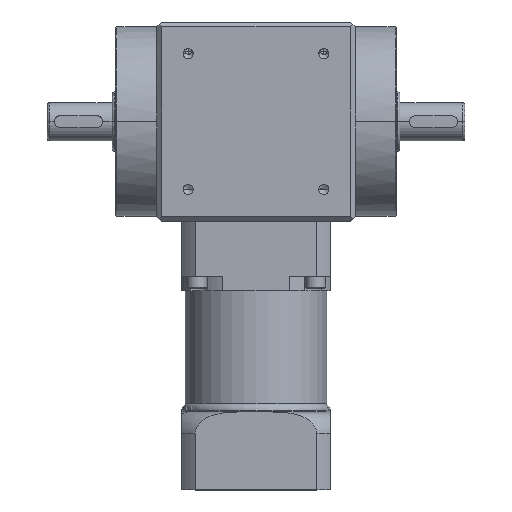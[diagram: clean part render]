
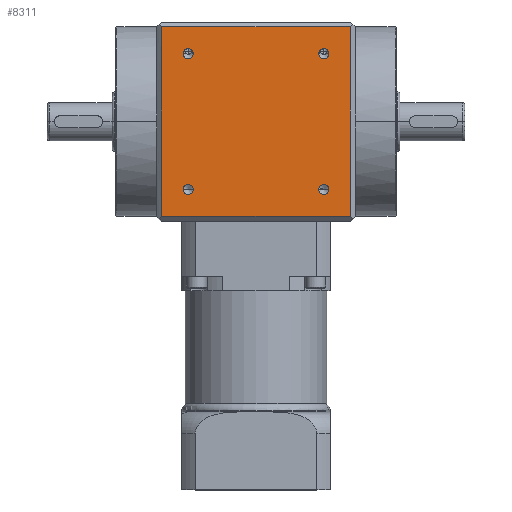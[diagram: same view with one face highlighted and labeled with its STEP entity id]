
A CAD part, top view. The second image highlights one B-rep face of the part: STEP entity #8311.
In plain terms, the highlighted planar face has unit normal (0, 0, 1).
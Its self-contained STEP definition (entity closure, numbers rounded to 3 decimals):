
#334 = CARTESIAN_POINT ( 'NONE',  ( 28.284, 105.316, 41.5 ) ) ;
#350 = CIRCLE ( 'NONE', #19215, 2.1 ) ;
#403 = CARTESIAN_POINT ( 'NONE',  ( -28.284, 163.984, 41.5 ) ) ;
#411 = DIRECTION ( 'NONE',  ( 0., 0., -1. ) ) ;
#420 = VERTEX_POINT ( 'NONE', #15628 ) ;
#786 = DIRECTION ( 'NONE',  ( 0., -1., 0. ) ) ;
#1040 = CIRCLE ( 'NONE', #12702, 2.1 ) ;
#1624 = DIRECTION ( 'NONE',  ( 0., 1., 0. ) ) ;
#1808 = LINE ( 'NONE', #12188, #14333 ) ;
#1946 = DIRECTION ( 'NONE',  ( 0., -1., 0. ) ) ;
#2062 = ORIENTED_EDGE ( 'NONE', *, *, #18816, .F. ) ;
#2247 = VERTEX_POINT ( 'NONE', #5812 ) ;
#2266 = EDGE_LOOP ( 'NONE', ( #18746, #11947 ) ) ;
#2603 = VERTEX_POINT ( 'NONE', #16761 ) ;
#2665 = DIRECTION ( 'NONE',  ( 0., 0., 1. ) ) ;
#3343 = DIRECTION ( 'NONE',  ( 0., 0., -1. ) ) ;
#3691 = EDGE_CURVE ( 'NONE', #15617, #10417, #1040, .T. ) ;
#3859 = CARTESIAN_POINT ( 'NONE',  ( 39.292, 0., 41.5 ) ) ;
#4835 = AXIS2_PLACEMENT_3D ( 'NONE', #14678, #14629, #14603 ) ;
#4847 = ORIENTED_EDGE ( 'NONE', *, *, #16354, .F. ) ;
#4848 = AXIS2_PLACEMENT_3D ( 'NONE', #16026, #6985, #17592 ) ;
#4887 = CARTESIAN_POINT ( 'NONE',  ( -28.284, 166.084, 41.5 ) ) ;
#5171 = DIRECTION ( 'NONE',  ( 0., 1., 0. ) ) ;
#5304 = DIRECTION ( 'NONE',  ( 0., 0., -1. ) ) ;
#5368 = CARTESIAN_POINT ( 'NONE',  ( -41.5, 177.2, 41.5 ) ) ;
#5486 = CIRCLE ( 'NONE', #18837, 2.1 ) ;
#5812 = CARTESIAN_POINT ( 'NONE',  ( -39.292, 96.2, 41.5 ) ) ;
#6049 = PLANE ( 'NONE',  #15906 ) ;
#6076 = DIRECTION ( 'NONE',  ( 0., -1., 0. ) ) ;
#6080 = DIRECTION ( 'NONE',  ( 0., 0., 1. ) ) ;
#6103 = CARTESIAN_POINT ( 'NONE',  ( 28.284, 107.416, 41.5 ) ) ;
#6547 = FACE_BOUND ( 'NONE', #7047, .T. ) ;
#6671 = ORIENTED_EDGE ( 'NONE', *, *, #17226, .T. ) ;
#6872 = AXIS2_PLACEMENT_3D ( 'NONE', #11736, #2665, #13235 ) ;
#6944 = EDGE_CURVE ( 'NONE', #19223, #15157, #16924, .T. ) ;
#6985 = DIRECTION ( 'NONE',  ( 0., 0., 1. ) ) ;
#7027 = FACE_BOUND ( 'NONE', #2266, .T. ) ;
#7047 = EDGE_LOOP ( 'NONE', ( #6671, #7445 ) ) ;
#7273 = CARTESIAN_POINT ( 'NONE',  ( -28.284, 163.984, 41.5 ) ) ;
#7445 = ORIENTED_EDGE ( 'NONE', *, *, #16078, .T. ) ;
#7520 = CIRCLE ( 'NONE', #4848, 2.1 ) ;
#7839 = CIRCLE ( 'NONE', #6872, 2.1 ) ;
#8059 = VERTEX_POINT ( 'NONE', #14202 ) ;
#8119 = VECTOR ( 'NONE', #1624, 1000. ) ;
#8179 = LINE ( 'NONE', #10684, #8119 ) ;
#8311 = ADVANCED_FACE ( 'NONE', ( #14548, #15746, #14330, #7027, #6547 ), #6049, .F. ) ;
#8709 = EDGE_LOOP ( 'NONE', ( #4847, #12677 ) ) ;
#8802 = DIRECTION ( 'NONE',  ( 0., -1., 0. ) ) ;
#8907 = ORIENTED_EDGE ( 'NONE', *, *, #18146, .F. ) ;
#9507 = CARTESIAN_POINT ( 'NONE',  ( 28.284, 163.984, 41.5 ) ) ;
#9647 = CARTESIAN_POINT ( 'NONE',  ( 28.284, 166.084, 41.5 ) ) ;
#10396 = EDGE_CURVE ( 'NONE', #420, #14547, #350, .T. ) ;
#10417 = VERTEX_POINT ( 'NONE', #334 ) ;
#10684 = CARTESIAN_POINT ( 'NONE',  ( -39.292, 177.2, 41.5 ) ) ;
#10730 = CARTESIAN_POINT ( 'NONE',  ( -28.284, 109.516, 41.5 ) ) ;
#10869 = CARTESIAN_POINT ( 'NONE',  ( 0., 175.2, 41.5 ) ) ;
#11019 = DIRECTION ( 'NONE',  ( 0., 0., -1. ) ) ;
#11027 = DIRECTION ( 'NONE',  ( 0., -1., 0. ) ) ;
#11337 = AXIS2_PLACEMENT_3D ( 'NONE', #9507, #411, #11027 ) ;
#11548 = EDGE_LOOP ( 'NONE', ( #15930, #18107 ) ) ;
#11714 = AXIS2_PLACEMENT_3D ( 'NONE', #7273, #17885, #8802 ) ;
#11736 = CARTESIAN_POINT ( 'NONE',  ( -28.284, 107.416, 41.5 ) ) ;
#11947 = ORIENTED_EDGE ( 'NONE', *, *, #17422, .T. ) ;
#12033 = VERTEX_POINT ( 'NONE', #4887 ) ;
#12134 = ORIENTED_EDGE ( 'NONE', *, *, #17976, .F. ) ;
#12188 = CARTESIAN_POINT ( 'NONE',  ( -41.5, 96.2, 41.5 ) ) ;
#12378 = DIRECTION ( 'NONE',  ( 1., 0., 0. ) ) ;
#12397 = CARTESIAN_POINT ( 'NONE',  ( 28.284, 163.984, 41.5 ) ) ;
#12677 = ORIENTED_EDGE ( 'NONE', *, *, #6944, .F. ) ;
#12702 = AXIS2_PLACEMENT_3D ( 'NONE', #6103, #6080, #6076 ) ;
#13235 = DIRECTION ( 'NONE',  ( 0., -1., 0. ) ) ;
#13708 = DIRECTION ( 'NONE',  ( -1., 0., 0. ) ) ;
#13917 = DIRECTION ( 'NONE',  ( 0., -1., 0. ) ) ;
#14202 = CARTESIAN_POINT ( 'NONE',  ( 39.292, 175.2, 41.5 ) ) ;
#14330 = FACE_BOUND ( 'NONE', #11548, .T. ) ;
#14333 = VECTOR ( 'NONE', #13708, 1000. ) ;
#14547 = VERTEX_POINT ( 'NONE', #9647 ) ;
#14548 = FACE_OUTER_BOUND ( 'NONE', #14642, .T. ) ;
#14603 = DIRECTION ( 'NONE',  ( 0., -1., 0. ) ) ;
#14629 = DIRECTION ( 'NONE',  ( 0., 0., 1. ) ) ;
#14642 = EDGE_LOOP ( 'NONE', ( #16406, #8907, #12134, #2062 ) ) ;
#14678 = CARTESIAN_POINT ( 'NONE',  ( -28.284, 107.416, 41.5 ) ) ;
#14750 = CIRCLE ( 'NONE', #11714, 2.1 ) ;
#15157 = VERTEX_POINT ( 'NONE', #18923 ) ;
#15608 = CARTESIAN_POINT ( 'NONE',  ( -28.284, 161.884, 41.5 ) ) ;
#15617 = VERTEX_POINT ( 'NONE', #17352 ) ;
#15628 = CARTESIAN_POINT ( 'NONE',  ( 28.284, 161.884, 41.5 ) ) ;
#15746 = FACE_BOUND ( 'NONE', #8709, .T. ) ;
#15906 = AXIS2_PLACEMENT_3D ( 'NONE', #5368, #5304, #5171 ) ;
#15930 = ORIENTED_EDGE ( 'NONE', *, *, #16228, .F. ) ;
#16026 = CARTESIAN_POINT ( 'NONE',  ( 28.284, 107.416, 41.5 ) ) ;
#16078 = EDGE_CURVE ( 'NONE', #12033, #19421, #5486, .T. ) ;
#16116 = CIRCLE ( 'NONE', #11337, 2.1 ) ;
#16228 = EDGE_CURVE ( 'NONE', #10417, #15617, #7520, .T. ) ;
#16354 = EDGE_CURVE ( 'NONE', #15157, #19223, #7839, .T. ) ;
#16372 = VECTOR ( 'NONE', #786, 1000. ) ;
#16406 = ORIENTED_EDGE ( 'NONE', *, *, #19210, .F. ) ;
#16415 = LINE ( 'NONE', #3859, #16372 ) ;
#16679 = CARTESIAN_POINT ( 'NONE',  ( -39.292, 175.2, 41.5 ) ) ;
#16761 = CARTESIAN_POINT ( 'NONE',  ( 39.292, 96.2, 41.5 ) ) ;
#16924 = CIRCLE ( 'NONE', #4835, 2.1 ) ;
#17081 = VERTEX_POINT ( 'NONE', #16679 ) ;
#17226 = EDGE_CURVE ( 'NONE', #19421, #12033, #14750, .T. ) ;
#17352 = CARTESIAN_POINT ( 'NONE',  ( 28.284, 109.516, 41.5 ) ) ;
#17422 = EDGE_CURVE ( 'NONE', #14547, #420, #16116, .T. ) ;
#17592 = DIRECTION ( 'NONE',  ( 0., -1., 0. ) ) ;
#17885 = DIRECTION ( 'NONE',  ( 0., 0., -1. ) ) ;
#17976 = EDGE_CURVE ( 'NONE', #17081, #8059, #19231, .T. ) ;
#18107 = ORIENTED_EDGE ( 'NONE', *, *, #3691, .F. ) ;
#18146 = EDGE_CURVE ( 'NONE', #8059, #2603, #16415, .T. ) ;
#18746 = ORIENTED_EDGE ( 'NONE', *, *, #10396, .T. ) ;
#18816 = EDGE_CURVE ( 'NONE', #2247, #17081, #8179, .T. ) ;
#18837 = AXIS2_PLACEMENT_3D ( 'NONE', #403, #11019, #1946 ) ;
#18923 = CARTESIAN_POINT ( 'NONE',  ( -28.284, 105.316, 41.5 ) ) ;
#19165 = VECTOR ( 'NONE', #12378, 1000. ) ;
#19210 = EDGE_CURVE ( 'NONE', #2603, #2247, #1808, .T. ) ;
#19215 = AXIS2_PLACEMENT_3D ( 'NONE', #12397, #3343, #13917 ) ;
#19223 = VERTEX_POINT ( 'NONE', #10730 ) ;
#19231 = LINE ( 'NONE', #10869, #19165 ) ;
#19421 = VERTEX_POINT ( 'NONE', #15608 ) ;
